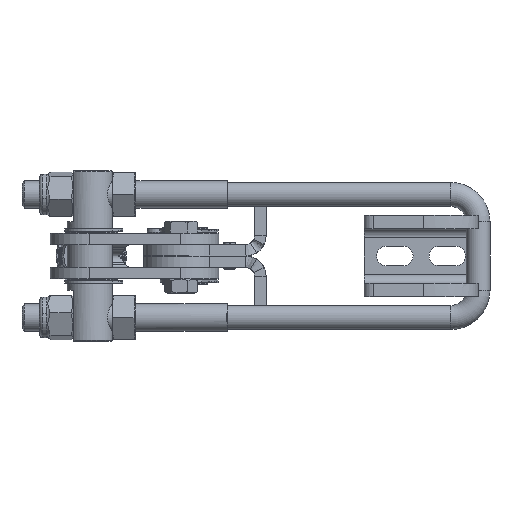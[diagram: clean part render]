
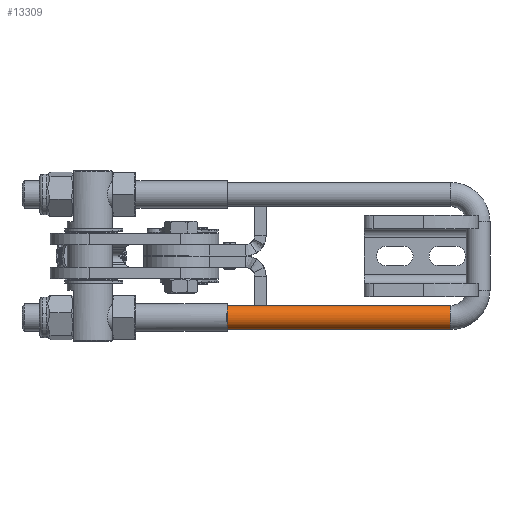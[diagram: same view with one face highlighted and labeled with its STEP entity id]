
A CAD part, left-side view. The second image highlights one B-rep face of the part: STEP entity #13309.
In plain terms, the highlighted cylindrical face has radius 5.25 mm (diameter 10.5 mm), a partial arc.
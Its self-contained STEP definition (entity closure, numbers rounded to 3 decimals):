
#362 = AXIS2_PLACEMENT_3D ( 'NONE', #11690, #23367, #5568 ) ;
#501 = EDGE_LOOP ( 'NONE', ( #14220, #11448, #2235, #3307 ) ) ;
#1475 = DIRECTION ( 'NONE',  ( 1., 0., 0. ) ) ;
#1691 = FACE_OUTER_BOUND ( 'NONE', #501, .T. ) ;
#2235 = ORIENTED_EDGE ( 'NONE', *, *, #20728, .T. ) ;
#2923 = CARTESIAN_POINT ( 'NONE',  ( 12., 0., -32.25 ) ) ;
#3266 = AXIS2_PLACEMENT_3D ( 'NONE', #6907, #22768, #12911 ) ;
#3307 = ORIENTED_EDGE ( 'NONE', *, *, #10159, .F. ) ;
#5568 = DIRECTION ( 'NONE',  ( 0., 0., -1. ) ) ;
#6907 = CARTESIAN_POINT ( 'NONE',  ( 110., 0., -27. ) ) ;
#7858 = AXIS2_PLACEMENT_3D ( 'NONE', #11107, #1475, #21595 ) ;
#8623 = DIRECTION ( 'NONE',  ( 1., 0., 0. ) ) ;
#9429 = VECTOR ( 'NONE', #8623, 1000. ) ;
#10159 = EDGE_CURVE ( 'NONE', #17747, #23741, #22785, .T. ) ;
#11107 = CARTESIAN_POINT ( 'NONE',  ( 12., 0., -27. ) ) ;
#11448 = ORIENTED_EDGE ( 'NONE', *, *, #18489, .T. ) ;
#11568 = VECTOR ( 'NONE', #15395, 1000. ) ;
#11690 = CARTESIAN_POINT ( 'NONE',  ( 12., 0., -27. ) ) ;
#12401 = VERTEX_POINT ( 'NONE', #18609 ) ;
#12458 = CARTESIAN_POINT ( 'NONE',  ( 12., 0., -21.75 ) ) ;
#12911 = DIRECTION ( 'NONE',  ( 0., 0., -1. ) ) ;
#13309 = ADVANCED_FACE ( 'NONE', ( #1691 ), #25327, .T. ) ;
#14220 = ORIENTED_EDGE ( 'NONE', *, *, #16953, .T. ) ;
#14461 = CIRCLE ( 'NONE', #3266, 5.25 ) ;
#15395 = DIRECTION ( 'NONE',  ( 1., 0., 0. ) ) ;
#16953 = EDGE_CURVE ( 'NONE', #17747, #20405, #21142, .T. ) ;
#17454 = CARTESIAN_POINT ( 'NONE',  ( 110., 0., -32.25 ) ) ;
#17709 = CARTESIAN_POINT ( 'NONE',  ( 12., 0., -21.75 ) ) ;
#17747 = VERTEX_POINT ( 'NONE', #2923 ) ;
#18358 = CARTESIAN_POINT ( 'NONE',  ( 12., 0., -32.25 ) ) ;
#18489 = EDGE_CURVE ( 'NONE', #20405, #12401, #21616, .T. ) ;
#18609 = CARTESIAN_POINT ( 'NONE',  ( 110., 0., -21.75 ) ) ;
#20405 = VERTEX_POINT ( 'NONE', #12458 ) ;
#20728 = EDGE_CURVE ( 'NONE', #12401, #23741, #14461, .T. ) ;
#21142 = CIRCLE ( 'NONE', #7858, 5.25 ) ;
#21595 = DIRECTION ( 'NONE',  ( 0., 0., -1. ) ) ;
#21616 = LINE ( 'NONE', #17709, #11568 ) ;
#22768 = DIRECTION ( 'NONE',  ( -1., 0., 0. ) ) ;
#22785 = LINE ( 'NONE', #18358, #9429 ) ;
#23367 = DIRECTION ( 'NONE',  ( 1., 0., 0. ) ) ;
#23741 = VERTEX_POINT ( 'NONE', #17454 ) ;
#25327 = CYLINDRICAL_SURFACE ( 'NONE', #362, 5.25 ) ;
